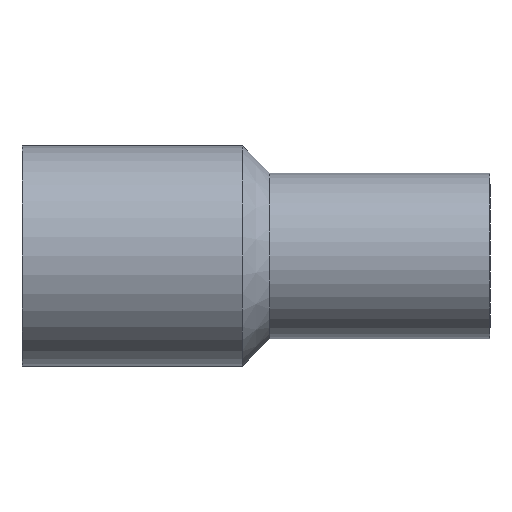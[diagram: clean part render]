
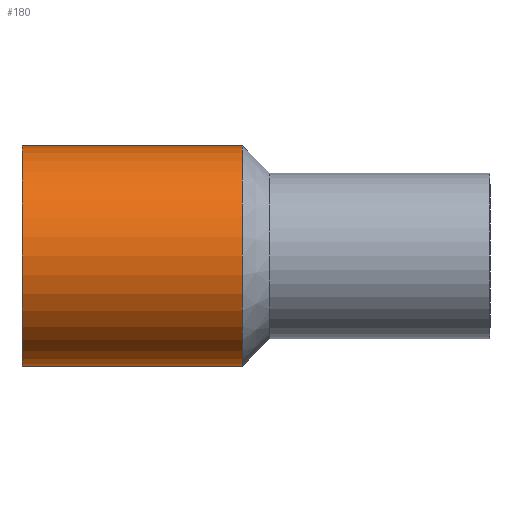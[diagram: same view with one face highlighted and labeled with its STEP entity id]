
A CAD part, front view. The second image highlights one B-rep face of the part: STEP entity #180.
In plain terms, the highlighted cylindrical face has radius 12.7 mm (diameter 25.4 mm), a partial arc.
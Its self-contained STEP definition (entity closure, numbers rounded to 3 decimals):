
#8 = DIRECTION ( 'NONE',  ( -1., 0., 0. ) ) ;
#11 = ORIENTED_EDGE ( 'NONE', *, *, #349, .T. ) ;
#16 = ORIENTED_EDGE ( 'NONE', *, *, #21, .F. ) ;
#19 = CYLINDRICAL_SURFACE ( 'NONE', #295, 12.7 ) ;
#21 = EDGE_CURVE ( 'NONE', #284, #32, #69, .T. ) ;
#32 = VERTEX_POINT ( 'NONE', #156 ) ;
#39 = DIRECTION ( 'NONE',  ( -1., 0., 0. ) ) ;
#42 = ORIENTED_EDGE ( 'NONE', *, *, #408, .F. ) ;
#43 = LINE ( 'NONE', #313, #339 ) ;
#46 = DIRECTION ( 'NONE',  ( 0., 0., 1. ) ) ;
#69 = LINE ( 'NONE', #107, #369 ) ;
#92 = CARTESIAN_POINT ( 'NONE',  ( 25.4, 0., 0. ) ) ;
#99 = DIRECTION ( 'NONE',  ( -1., 0., 0. ) ) ;
#100 = DIRECTION ( 'NONE',  ( -1., 0., 0. ) ) ;
#107 = CARTESIAN_POINT ( 'NONE',  ( -63.937, 0., -12.7 ) ) ;
#117 = DIRECTION ( 'NONE',  ( 0., 0., 1. ) ) ;
#143 = EDGE_LOOP ( 'NONE', ( #16, #11, #202, #42 ) ) ;
#156 = CARTESIAN_POINT ( 'NONE',  ( 0., 0., -12.7 ) ) ;
#177 = CIRCLE ( 'NONE', #292, 12.7 ) ;
#180 = ADVANCED_FACE ( 'NONE', ( #238 ), #19, .T. ) ;
#197 = CARTESIAN_POINT ( 'NONE',  ( 0., 0., 0. ) ) ;
#201 = CIRCLE ( 'NONE', #248, 12.7 ) ;
#202 = ORIENTED_EDGE ( 'NONE', *, *, #237, .T. ) ;
#214 = CARTESIAN_POINT ( 'NONE',  ( 0., 0., 12.7 ) ) ;
#225 = DIRECTION ( 'NONE',  ( 0., 0., 1. ) ) ;
#233 = CARTESIAN_POINT ( 'NONE',  ( 25.4, 0., 12.7 ) ) ;
#237 = EDGE_CURVE ( 'NONE', #395, #242, #43, .T. ) ;
#238 = FACE_OUTER_BOUND ( 'NONE', #143, .T. ) ;
#242 = VERTEX_POINT ( 'NONE', #214 ) ;
#248 = AXIS2_PLACEMENT_3D ( 'NONE', #92, #308, #117 ) ;
#284 = VERTEX_POINT ( 'NONE', #356 ) ;
#292 = AXIS2_PLACEMENT_3D ( 'NONE', #197, #8, #225 ) ;
#295 = AXIS2_PLACEMENT_3D ( 'NONE', #316, #39, #46 ) ;
#308 = DIRECTION ( 'NONE',  ( -1., 0., 0. ) ) ;
#313 = CARTESIAN_POINT ( 'NONE',  ( -63.937, 0., 12.7 ) ) ;
#316 = CARTESIAN_POINT ( 'NONE',  ( -63.937, 0., 0. ) ) ;
#339 = VECTOR ( 'NONE', #99, 1000. ) ;
#349 = EDGE_CURVE ( 'NONE', #284, #395, #201, .T. ) ;
#356 = CARTESIAN_POINT ( 'NONE',  ( 25.4, 0., -12.7 ) ) ;
#369 = VECTOR ( 'NONE', #100, 1000. ) ;
#395 = VERTEX_POINT ( 'NONE', #233 ) ;
#408 = EDGE_CURVE ( 'NONE', #32, #242, #177, .T. ) ;
